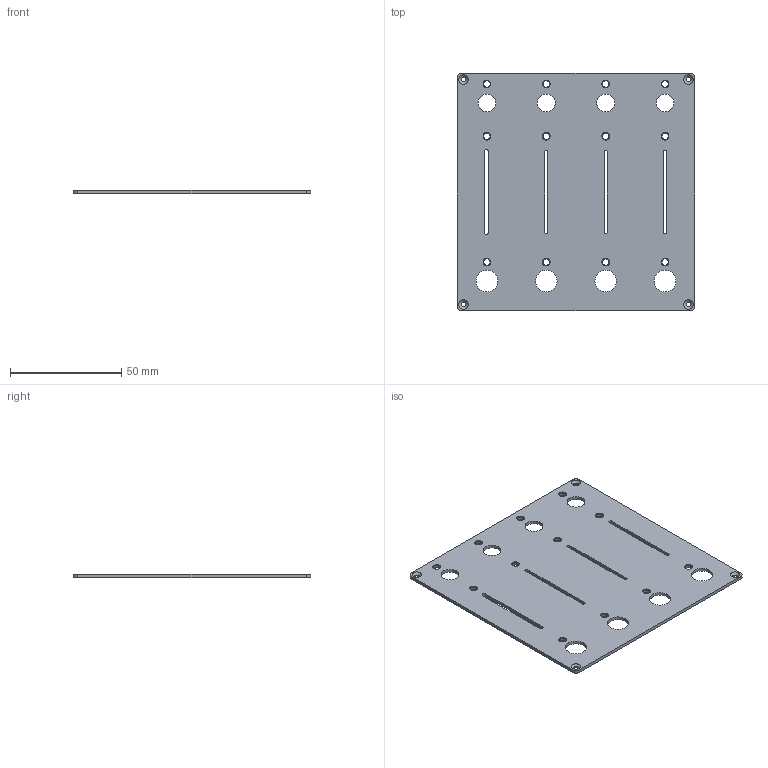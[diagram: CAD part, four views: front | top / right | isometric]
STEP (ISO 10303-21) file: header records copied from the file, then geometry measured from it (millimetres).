
FILE_DESCRIPTION(('FreeCAD Model'),'2;1');
FILE_NAME('/home/suku/Desktop/Frontpanel20201228/PBF4.step', '2020-12-28T10:05:02',('Author'),(''), 'Open CASCADE STEP processor 7.4','FreeCAD','Unknown');
FILE_SCHEMA(('AUTOMOTIVE_DESIGN { 1 0 10303 214 1 1 1 1 }'));
Length unit declared in the file: millimetre
Products named in the file (1): PBF4
Bounding box: 106.6 x 106.6 x 1.5 mm (x, y, z)
Volume: 15504.5 mm3; surface area: 23199.4 mm2
Topology: 1 solids, 1 shells, 98 faces, 236 edges, 156 vertices
Faces by surface type: cylinder 56, plane 38, cone 4
Full cylindrical faces by diameter (mm): 2.2 x4, 2.9 x12, 3.45 x12, 8 x4, 9.7 x4
Entity records: 6274 total; most frequent: CARTESIAN_POINT 1299, DIRECTION 966, LINE 480, VECTOR 480, ORIENTED_EDGE 472, PCURVE 472, DEFINITIONAL_REPRESENTATION 472, EDGE_CURVE 236
